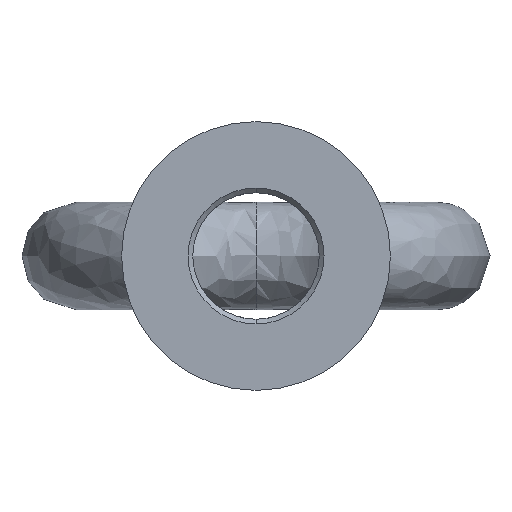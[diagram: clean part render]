
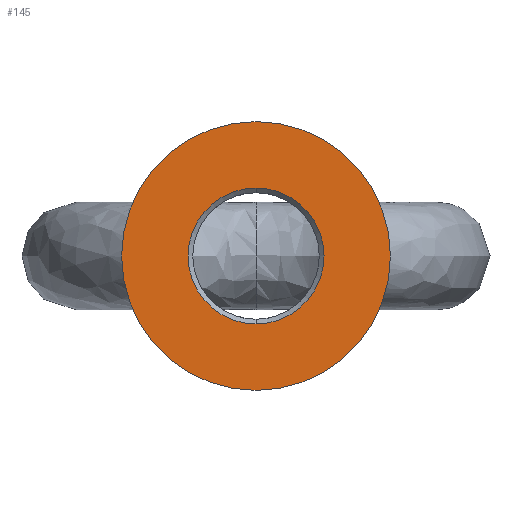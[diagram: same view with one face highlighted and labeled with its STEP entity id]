
A CAD part, front view. The second image highlights one B-rep face of the part: STEP entity #145.
In plain terms, the highlighted planar face has unit normal (0, -1, 0).
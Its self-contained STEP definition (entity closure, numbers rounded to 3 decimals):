
#46 = AXIS2_PLACEMENT_3D ( 'NONE', #3081, #2209, #521 ) ;
#49 = CARTESIAN_POINT ( 'NONE',  ( 0., 0., -85. ) ) ;
#145 = ADVANCED_FACE ( 'NONE', ( #481, #3240 ), #760, .T. ) ;
#404 = AXIS2_PLACEMENT_3D ( 'NONE', #3559, #724, #3591 ) ;
#465 = CIRCLE ( 'NONE', #3304, 85. ) ;
#481 = FACE_BOUND ( 'NONE', #3601, .T. ) ;
#519 = DIRECTION ( 'NONE',  ( 0., 0., -1. ) ) ;
#521 = DIRECTION ( 'NONE',  ( 0., 0., 1. ) ) ;
#705 = CIRCLE ( 'NONE', #3482, 43. ) ;
#724 = DIRECTION ( 'NONE',  ( 0., -1., 0. ) ) ;
#748 = DIRECTION ( 'NONE',  ( 0., 1., 0. ) ) ;
#760 = PLANE ( 'NONE',  #404 ) ;
#768 = AXIS2_PLACEMENT_3D ( 'NONE', #3340, #1934, #3616 ) ;
#906 = EDGE_CURVE ( 'NONE', #1796, #3176, #465, .T. ) ;
#992 = DIRECTION ( 'NONE',  ( 0., 0., 1. ) ) ;
#1031 = CARTESIAN_POINT ( 'NONE',  ( 0., 0., 0. ) ) ;
#1101 = CARTESIAN_POINT ( 'NONE',  ( 0., 0., 85. ) ) ;
#1176 = VERTEX_POINT ( 'NONE', #1559 ) ;
#1186 = CIRCLE ( 'NONE', #768, 43. ) ;
#1194 = CARTESIAN_POINT ( 'NONE',  ( 0., 0., 43. ) ) ;
#1463 = EDGE_LOOP ( 'NONE', ( #3549, #2024 ) ) ;
#1474 = ORIENTED_EDGE ( 'NONE', *, *, #1626, .T. ) ;
#1559 = CARTESIAN_POINT ( 'NONE',  ( 0., 0., -43. ) ) ;
#1626 = EDGE_CURVE ( 'NONE', #1176, #2063, #705, .T. ) ;
#1796 = VERTEX_POINT ( 'NONE', #1101 ) ;
#1881 = ORIENTED_EDGE ( 'NONE', *, *, #3639, .T. ) ;
#1934 = DIRECTION ( 'NONE',  ( 0., 1., 0. ) ) ;
#2024 = ORIENTED_EDGE ( 'NONE', *, *, #906, .F. ) ;
#2063 = VERTEX_POINT ( 'NONE', #1194 ) ;
#2209 = DIRECTION ( 'NONE',  ( 0., 1., 0. ) ) ;
#2715 = CIRCLE ( 'NONE', #46, 85. ) ;
#3026 = DIRECTION ( 'NONE',  ( 0., 1., 0. ) ) ;
#3081 = CARTESIAN_POINT ( 'NONE',  ( 0., 0., 0. ) ) ;
#3176 = VERTEX_POINT ( 'NONE', #49 ) ;
#3240 = FACE_OUTER_BOUND ( 'NONE', #1463, .T. ) ;
#3304 = AXIS2_PLACEMENT_3D ( 'NONE', #1031, #748, #992 ) ;
#3340 = CARTESIAN_POINT ( 'NONE',  ( 0., 0., 0. ) ) ;
#3357 = CARTESIAN_POINT ( 'NONE',  ( 0., 0., 0. ) ) ;
#3482 = AXIS2_PLACEMENT_3D ( 'NONE', #3357, #3026, #519 ) ;
#3549 = ORIENTED_EDGE ( 'NONE', *, *, #3592, .F. ) ;
#3559 = CARTESIAN_POINT ( 'NONE',  ( 0., 0., 0. ) ) ;
#3591 = DIRECTION ( 'NONE',  ( 0., 0., -1. ) ) ;
#3592 = EDGE_CURVE ( 'NONE', #3176, #1796, #2715, .T. ) ;
#3601 = EDGE_LOOP ( 'NONE', ( #1474, #1881 ) ) ;
#3616 = DIRECTION ( 'NONE',  ( 0., 0., -1. ) ) ;
#3639 = EDGE_CURVE ( 'NONE', #2063, #1176, #1186, .T. ) ;
